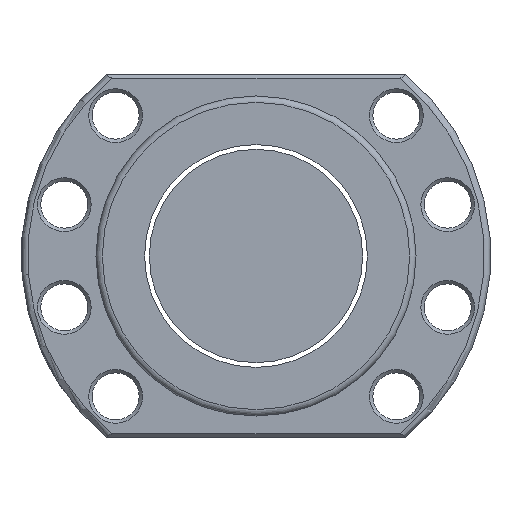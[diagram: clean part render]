
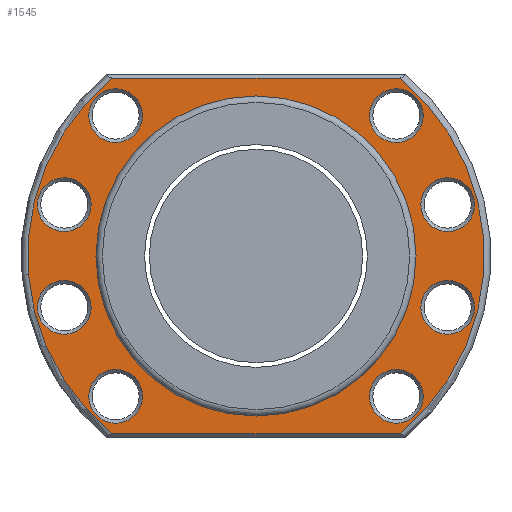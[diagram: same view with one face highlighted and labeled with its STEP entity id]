
A CAD part, left-side view. The second image highlights one B-rep face of the part: STEP entity #1545.
In plain terms, the highlighted planar face has unit normal (-1, 0, 0).
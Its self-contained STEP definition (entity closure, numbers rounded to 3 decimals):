
#58 = AXIS2_PLACEMENT_3D ( 'NONE', #2008, #1192, #921 ) ;
#83 = VERTEX_POINT ( 'NONE', #1603 ) ;
#111 = AXIS2_PLACEMENT_3D ( 'NONE', #534, #322, #845 ) ;
#143 = ORIENTED_EDGE ( 'NONE', *, *, #742, .T. ) ;
#157 = EDGE_CURVE ( 'NONE', #317, #83, #2357, .T. ) ;
#164 = CIRCLE ( 'NONE', #2141, 53.5 ) ;
#166 = CARTESIAN_POINT ( 'NONE',  ( -31.5, 33.517, 41.7 ) ) ;
#179 = ORIENTED_EDGE ( 'NONE', *, *, #2984, .T. ) ;
#210 = DIRECTION ( 'NONE',  ( 0., 0., 1. ) ) ;
#222 = CIRCLE ( 'NONE', #2587, 6.3 ) ;
#228 = AXIS2_PLACEMENT_3D ( 'NONE', #3397, #2909, #739 ) ;
#236 = CARTESIAN_POINT ( 'NONE',  ( -31.5, 55., 41.7 ) ) ;
#316 = EDGE_CURVE ( 'NONE', #735, #735, #1744, .T. ) ;
#317 = VERTEX_POINT ( 'NONE', #1273 ) ;
#322 = DIRECTION ( 'NONE',  ( 1., 0., 0. ) ) ;
#354 = CARTESIAN_POINT ( 'NONE',  ( -31.5, 0., 0. ) ) ;
#378 = EDGE_LOOP ( 'NONE', ( #3348 ) ) ;
#395 = CIRCLE ( 'NONE', #2026, 6.3 ) ;
#417 = EDGE_LOOP ( 'NONE', ( #2255 ) ) ;
#484 = DIRECTION ( 'NONE',  ( 1., 0., 0. ) ) ;
#506 = EDGE_LOOP ( 'NONE', ( #1410 ) ) ;
#511 = VERTEX_POINT ( 'NONE', #2657 ) ;
#529 = VERTEX_POINT ( 'NONE', #1608 ) ;
#534 = CARTESIAN_POINT ( 'NONE',  ( -31.5, 32.88, 32.88 ) ) ;
#565 = VERTEX_POINT ( 'NONE', #1394 ) ;
#583 = VERTEX_POINT ( 'NONE', #1646 ) ;
#601 = DIRECTION ( 'NONE',  ( -1., 0., 0. ) ) ;
#615 = CARTESIAN_POINT ( 'NONE',  ( -31.5, 33.517, -41.7 ) ) ;
#617 = DIRECTION ( 'NONE',  ( 0., 0., 1. ) ) ;
#669 = AXIS2_PLACEMENT_3D ( 'NONE', #1436, #3014, #2751 ) ;
#680 = DIRECTION ( 'NONE',  ( 1., 0., 0. ) ) ;
#684 = DIRECTION ( 'NONE',  ( 1., 0., 0. ) ) ;
#707 = ORIENTED_EDGE ( 'NONE', *, *, #316, .T. ) ;
#731 = DIRECTION ( 'NONE',  ( -1., 0., 0. ) ) ;
#735 = VERTEX_POINT ( 'NONE', #1802 ) ;
#739 = DIRECTION ( 'NONE',  ( 0., 0., 1. ) ) ;
#742 = EDGE_CURVE ( 'NONE', #83, #1663, #2174, .T. ) ;
#757 = EDGE_LOOP ( 'NONE', ( #2299 ) ) ;
#768 = CARTESIAN_POINT ( 'NONE',  ( -31.5, 0., -37.5 ) ) ;
#829 = DIRECTION ( 'NONE',  ( 0., 1., 0. ) ) ;
#845 = DIRECTION ( 'NONE',  ( 0., 0., 1. ) ) ;
#846 = CIRCLE ( 'NONE', #111, 6.3 ) ;
#856 = ORIENTED_EDGE ( 'NONE', *, *, #1039, .T. ) ;
#882 = DIRECTION ( 'NONE',  ( 1., 0., 0. ) ) ;
#915 = LINE ( 'NONE', #1184, #2418 ) ;
#921 = DIRECTION ( 'NONE',  ( 0., 0., 1. ) ) ;
#935 = EDGE_LOOP ( 'NONE', ( #3297 ) ) ;
#950 = CIRCLE ( 'NONE', #228, 6.3 ) ;
#968 = EDGE_CURVE ( 'NONE', #583, #583, #395, .T. ) ;
#973 = PLANE ( 'NONE',  #1175 ) ;
#1039 = EDGE_CURVE ( 'NONE', #1447, #317, #915, .T. ) ;
#1048 = VERTEX_POINT ( 'NONE', #3196 ) ;
#1103 = EDGE_LOOP ( 'NONE', ( #2598, #143, #2515, #856 ) ) ;
#1127 = CIRCLE ( 'NONE', #1239, 6.3 ) ;
#1171 = FACE_BOUND ( 'NONE', #378, .T. ) ;
#1175 = AXIS2_PLACEMENT_3D ( 'NONE', #2846, #731, #2902 ) ;
#1184 = CARTESIAN_POINT ( 'NONE',  ( -31.5, 55., -41.7 ) ) ;
#1192 = DIRECTION ( 'NONE',  ( 1., 0., 0. ) ) ;
#1239 = AXIS2_PLACEMENT_3D ( 'NONE', #1268, #2331, #3130 ) ;
#1251 = CARTESIAN_POINT ( 'NONE',  ( -31.5, 32.88, -32.88 ) ) ;
#1268 = CARTESIAN_POINT ( 'NONE',  ( -31.5, 44.916, -12.035 ) ) ;
#1273 = CARTESIAN_POINT ( 'NONE',  ( -31.5, -33.517, -41.7 ) ) ;
#1337 = VERTEX_POINT ( 'NONE', #2412 ) ;
#1394 = CARTESIAN_POINT ( 'NONE',  ( -31.5, -32.88, -26.58 ) ) ;
#1410 = ORIENTED_EDGE ( 'NONE', *, *, #2848, .T. ) ;
#1436 = CARTESIAN_POINT ( 'NONE',  ( -31.5, 0., 0. ) ) ;
#1447 = VERTEX_POINT ( 'NONE', #615 ) ;
#1507 = DIRECTION ( 'NONE',  ( 1., 0., 0. ) ) ;
#1535 = FACE_BOUND ( 'NONE', #757, .T. ) ;
#1545 = ADVANCED_FACE ( 'NONE', ( #1171, #1767, #3323, #1991, #2831, #2919, #3138, #3157, #1535, #2865 ), #973, .T. ) ;
#1566 = ORIENTED_EDGE ( 'NONE', *, *, #1953, .T. ) ;
#1603 = CARTESIAN_POINT ( 'NONE',  ( -31.5, -33.517, 41.7 ) ) ;
#1608 = CARTESIAN_POINT ( 'NONE',  ( -31.5, 44.916, -5.735 ) ) ;
#1646 = CARTESIAN_POINT ( 'NONE',  ( -31.5, -44.916, -5.735 ) ) ;
#1663 = VERTEX_POINT ( 'NONE', #166 ) ;
#1710 = DIRECTION ( 'NONE',  ( 0., -1., 0. ) ) ;
#1744 = CIRCLE ( 'NONE', #3420, 6.3 ) ;
#1758 = EDGE_LOOP ( 'NONE', ( #707 ) ) ;
#1767 = FACE_BOUND ( 'NONE', #417, .T. ) ;
#1802 = CARTESIAN_POINT ( 'NONE',  ( -31.5, -44.916, 18.335 ) ) ;
#1868 = EDGE_LOOP ( 'NONE', ( #179 ) ) ;
#1948 = CARTESIAN_POINT ( 'NONE',  ( -31.5, -44.916, -12.035 ) ) ;
#1953 = EDGE_CURVE ( 'NONE', #3465, #3465, #222, .T. ) ;
#1972 = AXIS2_PLACEMENT_3D ( 'NONE', #354, #684, #2275 ) ;
#1991 = FACE_BOUND ( 'NONE', #935, .T. ) ;
#2008 = CARTESIAN_POINT ( 'NONE',  ( -31.5, -32.88, -32.88 ) ) ;
#2026 = AXIS2_PLACEMENT_3D ( 'NONE', #1948, #882, #2493 ) ;
#2030 = CIRCLE ( 'NONE', #1972, 37.5 ) ;
#2070 = CARTESIAN_POINT ( 'NONE',  ( -31.5, 44.916, 12.035 ) ) ;
#2141 = AXIS2_PLACEMENT_3D ( 'NONE', #3011, #601, #617 ) ;
#2174 = LINE ( 'NONE', #236, #2482 ) ;
#2255 = ORIENTED_EDGE ( 'NONE', *, *, #968, .T. ) ;
#2275 = DIRECTION ( 'NONE',  ( 0., 0., -1. ) ) ;
#2297 = EDGE_CURVE ( 'NONE', #1663, #1447, #164, .T. ) ;
#2299 = ORIENTED_EDGE ( 'NONE', *, *, #2451, .T. ) ;
#2317 = ORIENTED_EDGE ( 'NONE', *, *, #3082, .T. ) ;
#2331 = DIRECTION ( 'NONE',  ( 1., 0., 0. ) ) ;
#2357 = CIRCLE ( 'NONE', #669, 53.5 ) ;
#2412 = CARTESIAN_POINT ( 'NONE',  ( -31.5, 32.88, 39.18 ) ) ;
#2418 = VECTOR ( 'NONE', #1710, 1000. ) ;
#2424 = EDGE_CURVE ( 'NONE', #565, #565, #3085, .T. ) ;
#2431 = CARTESIAN_POINT ( 'NONE',  ( -31.5, 44.916, 18.335 ) ) ;
#2451 = EDGE_CURVE ( 'NONE', #3179, #3179, #2030, .T. ) ;
#2482 = VECTOR ( 'NONE', #829, 1000. ) ;
#2493 = DIRECTION ( 'NONE',  ( 0., 0., 1. ) ) ;
#2515 = ORIENTED_EDGE ( 'NONE', *, *, #2297, .T. ) ;
#2587 = AXIS2_PLACEMENT_3D ( 'NONE', #2070, #680, #3403 ) ;
#2598 = ORIENTED_EDGE ( 'NONE', *, *, #157, .T. ) ;
#2647 = AXIS2_PLACEMENT_3D ( 'NONE', #1251, #1507, #210 ) ;
#2653 = EDGE_LOOP ( 'NONE', ( #2317 ) ) ;
#2657 = CARTESIAN_POINT ( 'NONE',  ( -31.5, 32.88, -26.58 ) ) ;
#2668 = DIRECTION ( 'NONE',  ( 0., 0., 1. ) ) ;
#2751 = DIRECTION ( 'NONE',  ( 0., 0., 1. ) ) ;
#2762 = CIRCLE ( 'NONE', #2647, 6.3 ) ;
#2831 = FACE_BOUND ( 'NONE', #2653, .T. ) ;
#2846 = CARTESIAN_POINT ( 'NONE',  ( -31.5, 55., 0. ) ) ;
#2848 = EDGE_CURVE ( 'NONE', #511, #511, #2762, .T. ) ;
#2865 = FACE_OUTER_BOUND ( 'NONE', #1103, .T. ) ;
#2887 = CARTESIAN_POINT ( 'NONE',  ( -31.5, -44.916, 12.035 ) ) ;
#2902 = DIRECTION ( 'NONE',  ( 0., 0., 1. ) ) ;
#2909 = DIRECTION ( 'NONE',  ( 1., 0., 0. ) ) ;
#2919 = FACE_BOUND ( 'NONE', #2931, .T. ) ;
#2931 = EDGE_LOOP ( 'NONE', ( #1566 ) ) ;
#2941 = EDGE_CURVE ( 'NONE', #1048, #1048, #950, .T. ) ;
#2984 = EDGE_CURVE ( 'NONE', #529, #529, #1127, .T. ) ;
#3011 = CARTESIAN_POINT ( 'NONE',  ( -31.5, 0., 0. ) ) ;
#3014 = DIRECTION ( 'NONE',  ( -1., 0., 0. ) ) ;
#3082 = EDGE_CURVE ( 'NONE', #1337, #1337, #846, .T. ) ;
#3085 = CIRCLE ( 'NONE', #58, 6.3 ) ;
#3130 = DIRECTION ( 'NONE',  ( 0., 0., 1. ) ) ;
#3138 = FACE_BOUND ( 'NONE', #1868, .T. ) ;
#3157 = FACE_BOUND ( 'NONE', #506, .T. ) ;
#3179 = VERTEX_POINT ( 'NONE', #768 ) ;
#3196 = CARTESIAN_POINT ( 'NONE',  ( -31.5, -32.88, 39.18 ) ) ;
#3297 = ORIENTED_EDGE ( 'NONE', *, *, #2941, .T. ) ;
#3323 = FACE_BOUND ( 'NONE', #1758, .T. ) ;
#3348 = ORIENTED_EDGE ( 'NONE', *, *, #2424, .T. ) ;
#3397 = CARTESIAN_POINT ( 'NONE',  ( -31.5, -32.88, 32.88 ) ) ;
#3403 = DIRECTION ( 'NONE',  ( 0., 0., 1. ) ) ;
#3420 = AXIS2_PLACEMENT_3D ( 'NONE', #2887, #484, #2668 ) ;
#3465 = VERTEX_POINT ( 'NONE', #2431 ) ;
